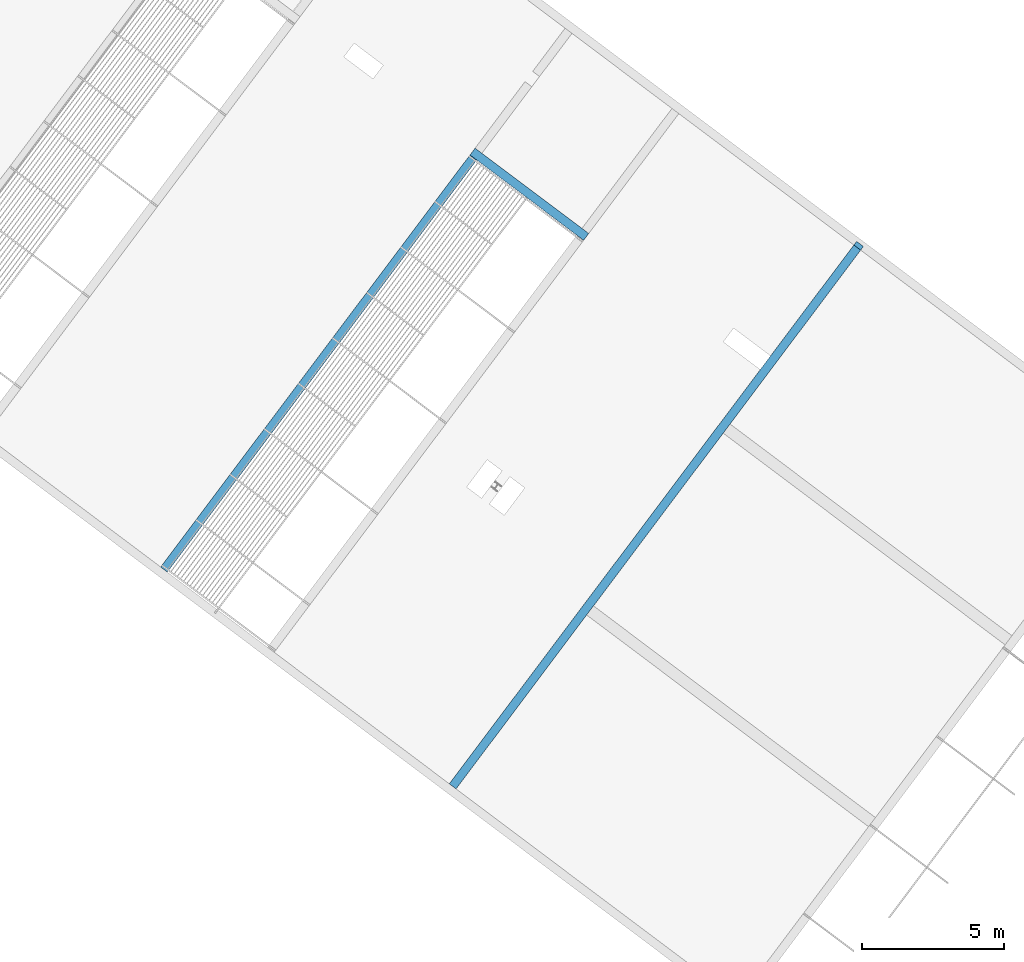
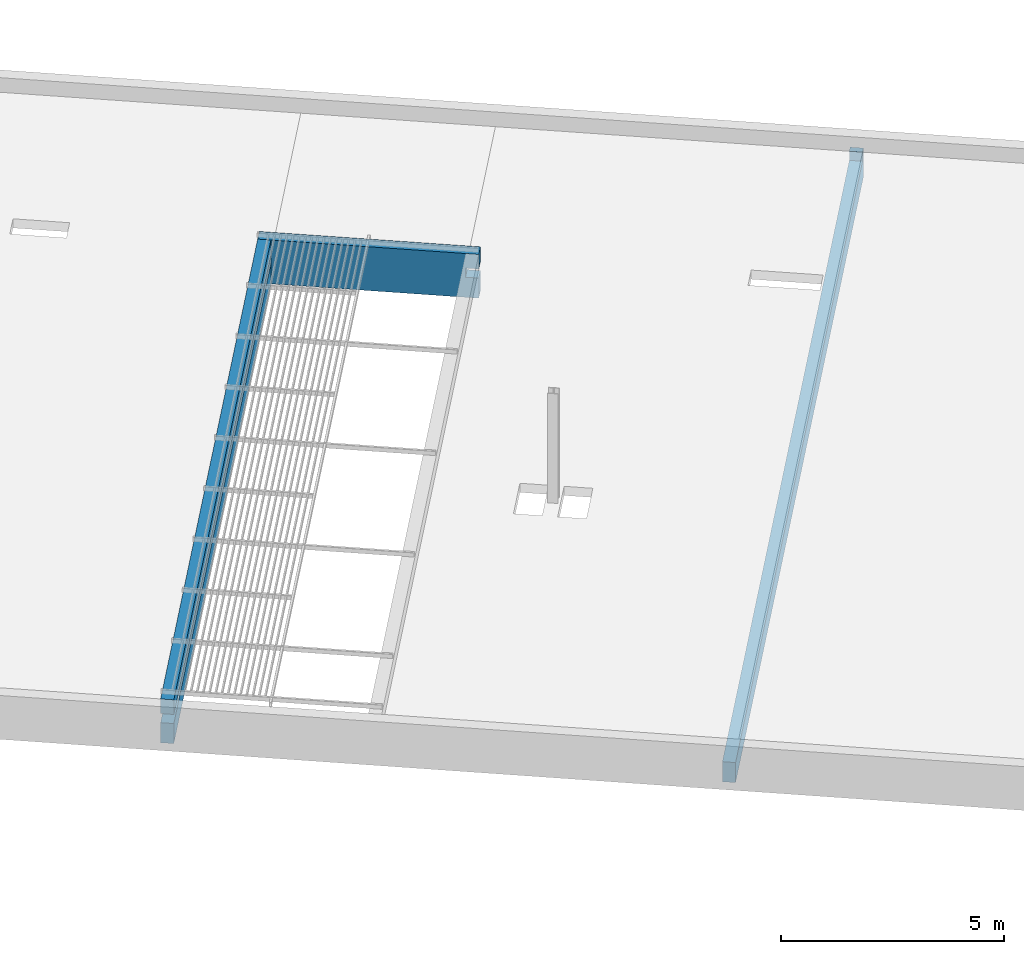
# One storey, part 94 of 95: 3 beams.
"""IFC2X3 building model written with IfcOpenShell, lengths in metres."""

from ifc_helpers import new_model, entity, si_unit, converted_unit, derived_unit, direction, frame, origin, place, context, subcontext, project, spatial, faceted_brep, source, transform, mapped, material, type_object, type_shapes, element, save


model = new_model("IFC2X3")

# Units and contexts
model_context = context("Model", 3, precision=1e-05, world=origin(), true_north=direction((6.123031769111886e-17, 1.0)))
body_context = subcontext(model_context, "Body", "Model", "MODEL_VIEW")
ifc_project = project(units=[si_unit("LENGTHUNIT", "METRE"), si_unit("AREAUNIT", "SQUARE_METRE"), si_unit("VOLUMEUNIT", "CUBIC_METRE"), converted_unit("PLANEANGLEUNIT", "DEGREE", entity("IfcRatioMeasure", 0.017453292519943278), si_unit("PLANEANGLEUNIT", "RADIAN"), dimensions=[0, 0, 0, 0, 0, 0, 0]), si_unit("MASSUNIT", "GRAM", prefix="KILO"), derived_unit("MASSDENSITYUNIT", [(si_unit("MASSUNIT", "GRAM", prefix="KILO"), 1), (si_unit("LENGTHUNIT", "METRE"), -3)]), derived_unit("IONCONCENTRATIONUNIT", [(si_unit("MASSUNIT", "GRAM", prefix="KILO"), 1), (si_unit("LENGTHUNIT", "METRE"), -3)]), derived_unit("MOMENTOFINERTIAUNIT", [(si_unit("LENGTHUNIT", "METRE"), 4)]), si_unit("TIMEUNIT", "SECOND"), si_unit("FREQUENCYUNIT", "HERTZ"), si_unit("THERMODYNAMICTEMPERATUREUNIT", "DEGREE_CELSIUS"), derived_unit("THERMALTRANSMITTANCEUNIT", [(si_unit("MASSUNIT", "GRAM", prefix="KILO"), 1), (si_unit("THERMODYNAMICTEMPERATUREUNIT", "KELVIN"), -1), (si_unit("TIMEUNIT", "SECOND"), -3)]), derived_unit("THERMALCONDUCTANCEUNIT", [(si_unit("MASSUNIT", "GRAM", prefix="KILO"), 1), (si_unit("THERMODYNAMICTEMPERATUREUNIT", "KELVIN"), -1), (si_unit("TIMEUNIT", "SECOND"), -3), (si_unit("LENGTHUNIT", "METRE"), 1)]), derived_unit("VOLUMETRICFLOWRATEUNIT", [(si_unit("LENGTHUNIT", "METRE"), 3), (si_unit("TIMEUNIT", "SECOND"), -1)]), derived_unit("MASSFLOWRATEUNIT", [(si_unit("MASSUNIT", "GRAM", prefix="KILO"), 1), (si_unit("TIMEUNIT", "SECOND"), -1)]), derived_unit("ROTATIONALFREQUENCYUNIT", [(si_unit("TIMEUNIT", "SECOND"), -1)]), si_unit("ELECTRICCURRENTUNIT", "AMPERE"), si_unit("ELECTRICVOLTAGEUNIT", "VOLT"), si_unit("POWERUNIT", "WATT"), si_unit("FORCEUNIT", "NEWTON", prefix="KILO"), si_unit("ILLUMINANCEUNIT", "LUX"), si_unit("LUMINOUSFLUXUNIT", "LUMEN"), si_unit("LUMINOUSINTENSITYUNIT", "CANDELA"), derived_unit("USERDEFINED", [(si_unit("MASSUNIT", "GRAM", prefix="KILO"), -1), (si_unit("LENGTHUNIT", "METRE"), -2), (si_unit("TIMEUNIT", "SECOND"), 3), (si_unit("LUMINOUSFLUXUNIT", "LUMEN"), 1)]), derived_unit("USERDEFINED", [(si_unit("MASSUNIT", "GRAM", prefix="KILO"), 1), (si_unit("TIMEUNIT", "SECOND"), -3), (si_unit("LENGTHUNIT", "METRE"), 3), (si_unit("ELECTRICCURRENTUNIT", "AMPERE"), -2)]), derived_unit("SOUNDPOWERUNIT", [(si_unit("MASSUNIT", "GRAM", prefix="KILO"), 1), (si_unit("TIMEUNIT", "SECOND"), -3), (si_unit("LENGTHUNIT", "METRE"), 2)]), derived_unit("SOUNDPRESSUREUNIT", [(si_unit("MASSUNIT", "GRAM", prefix="KILO"), 1), (si_unit("LENGTHUNIT", "METRE"), -1), (si_unit("TIMEUNIT", "SECOND"), -2)]), derived_unit("LINEARVELOCITYUNIT", [(si_unit("LENGTHUNIT", "METRE"), 1), (si_unit("TIMEUNIT", "SECOND"), -1)]), si_unit("PRESSUREUNIT", "PASCAL"), derived_unit("USERDEFINED", [(si_unit("MASSUNIT", "GRAM", prefix="KILO"), 1), (si_unit("LENGTHUNIT", "METRE"), -2), (si_unit("TIMEUNIT", "SECOND"), -2)]), derived_unit("LINEARFORCEUNIT", [(si_unit("MASSUNIT", "GRAM", prefix="KILO"), 1), (si_unit("TIMEUNIT", "SECOND"), -2)]), derived_unit("PLANARFORCEUNIT", [(si_unit("MASSUNIT", "GRAM", prefix="KILO"), 1), (si_unit("LENGTHUNIT", "METRE"), -1), (si_unit("TIMEUNIT", "SECOND"), -2)]), derived_unit("SPECIFICHEATCAPACITYUNIT", [(si_unit("THERMODYNAMICTEMPERATUREUNIT", "KELVIN"), -1), (si_unit("LENGTHUNIT", "METRE"), 2), (si_unit("TIMEUNIT", "SECOND"), -2)]), derived_unit("HEATINGVALUEUNIT", [(si_unit("LENGTHUNIT", "METRE"), 2), (si_unit("TIMEUNIT", "SECOND"), -2)]), derived_unit("VAPORPERMEABILITYUNIT", [(si_unit("LENGTHUNIT", "METRE"), -1), (si_unit("TIMEUNIT", "SECOND"), 1)]), derived_unit("DYNAMICVISCOSITYUNIT", [(si_unit("MASSUNIT", "GRAM", prefix="KILO"), 1), (si_unit("TIMEUNIT", "SECOND"), -1), (si_unit("LENGTHUNIT", "METRE"), -1)]), derived_unit("THERMALEXPANSIONCOEFFICIENTUNIT", [(si_unit("THERMODYNAMICTEMPERATUREUNIT", "KELVIN"), -1)]), derived_unit("MODULUSOFELASTICITYUNIT", [(si_unit("MASSUNIT", "GRAM", prefix="KILO"), 1), (si_unit("LENGTHUNIT", "METRE"), -1), (si_unit("TIMEUNIT", "SECOND"), -2)]), derived_unit("ISOTHERMALMOISTURECAPACITYUNIT", [(si_unit("LENGTHUNIT", "METRE"), 3), (si_unit("MASSUNIT", "GRAM", prefix="KILO"), -1)]), derived_unit("MOISTUREDIFFUSIVITYUNIT", [(si_unit("TIMEUNIT", "SECOND"), -1), (si_unit("LENGTHUNIT", "METRE"), 2)])], contexts=[model_context])

# Site, building, storey
site_placement = place(None, origin())
site = spatial("IfcSite", under=ifc_project, at=site_placement, Name="Default", CompositionType="ELEMENT")
building_placement = place(site_placement, frame((0.0, 0.0, 235.0), z_axis=(0.0, 0.0, 1.0), x_axis=(-0.7996477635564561, 0.6004693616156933, 0.0)))
building = spatial("IfcBuilding", under=site, at=building_placement, CompositionType="ELEMENT")
storey_placement = place(building_placement, frame((0.0, 0.0, 3.400000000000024)))
storey = spatial("IfcBuildingStorey", under=building, at=storey_placement, Name="PC- Coberta STR", CompositionType="ELEMENT", Elevation=3.400000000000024)

# Beams
ifc_material = material(Name="_Formigó- T1- STR")
beam_type_1 = type_object("IfcBeamType", Name="STR- V- Formigó- Rectangular- T1:30x120 cm", PredefinedType="NOTDEFINED")
beam_1_placement = place(storey_placement, frame((23.645147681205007, -36.76519175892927, -0.8000000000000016)))
element("IfcBeam", 1, at=beam_1_placement, inside=storey, type_object=beam_type_1, material=ifc_material, Name="STR- V- Formigó- Rectangular- T1:30x120 cm", ObjectType="STR- V- Formigó- Rectangular- T1:30x120 cm", context=body_context, shape_type="Brep", body=[
    faceted_brep([(0.0, 0.3000000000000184, 1.199999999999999), (0.0, 0.0, 1.199999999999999), (5.0, 0.0, 1.199999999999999), (5.0, 0.30000000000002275, 1.199999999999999), (4.699999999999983, 0.3000000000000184, 1.199999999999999), (0.3000000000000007, 0.30000000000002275, 1.199999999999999), (0.0, 0.0, 0.8000000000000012), (0.29999999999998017, 0.0, 0.8000000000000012), (0.29999999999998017, 0.0, 0.5500000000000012), (0.0, 0.0, 0.5500000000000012), (0.0, 0.0, 0.0), (0.29999999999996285, 0.0, 0.0), (4.699999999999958, 0.0, 0.0), (5.0, 0.0, 0.0), (5.0, 0.0, 0.5500000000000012), (4.699999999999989, 0.0, 0.5500000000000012), (4.699999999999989, 0.0, 0.8000000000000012), (5.0, 0.0, 0.8000000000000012), (0.0, 0.30000000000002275, 0.0), (0.3000000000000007, 0.3000000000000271, 0.0), (4.699999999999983, 0.30000000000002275, 0.0), (5.0, 0.3000000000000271, 0.0), (5.0, 0.3000000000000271, 0.8000000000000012), (4.699999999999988, 0.30000000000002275, 0.8000000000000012), (4.699999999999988, 0.30000000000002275, 0.5500000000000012), (5.0, 0.3000000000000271, 0.5500000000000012), (0.0, 0.30000000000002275, 0.5500000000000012), (0.29999999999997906, 0.3000000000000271, 0.5500000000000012), (0.29999999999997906, 0.3000000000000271, 0.8000000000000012), (0.0, 0.30000000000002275, 0.8000000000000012)], [[[0, 1, 2, 3, 4, 5]], [[2, 1, 6, 7, 8, 9, 10, 11, 12, 13, 14, 15, 16, 17]], [[10, 18, 19, 20, 21, 13, 12, 11]], [[0, 5, 4, 3, 22, 23, 24, 25, 21, 20, 19, 18, 26, 27, 28, 29]], [[1, 0, 29, 6]], [[13, 21, 25, 14]], [[8, 27, 26, 9]], [[28, 7, 6, 29]], [[15, 24, 23, 16]], [[27, 8, 7, 28]], [[18, 10, 9, 26]], [[3, 2, 17, 22]], [[24, 15, 14, 25]], [[16, 23, 22, 17]]]),
])
beam_type_2 = type_object("IfcBeamType", Name="STR- V- Formigó- Rectangular- T1:30x80 cm", PredefinedType="NOTDEFINED")
beam_2_placement = place(storey_placement, frame((15.645147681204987, -42.20289175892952, -0.8000000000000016), z_axis=(0.0, 0.0, 1.0), x_axis=(0.0, -1.0, 0.0)))
element("IfcBeam", 2, at=beam_2_placement, inside=storey, type_object=beam_type_2, material=ifc_material, Name="STR- V- Formigó- Rectangular- T1:30x80 cm", ObjectType="STR- V- Formigó- Rectangular- T1:30x80 cm", context=body_context, shape_type="Brep", body=[
    faceted_brep([(0.0, 0.30000000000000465, 0.8), (0.0, 0.0, 0.8), (0.0, 0.0, 0.0), (0.0, 0.30000000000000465, 0.0), (-0.1627000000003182, 0.3000000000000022, 0.8), (-0.1627000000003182, 0.0, 0.8), (-0.1627000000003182, 0.0, 0.5500000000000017), (-7.812699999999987, 0.0, 0.5500000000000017), (-8.212699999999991, 0.0, 0.5500000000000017), (-15.812699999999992, 0.0, 0.5500000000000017), (-16.212699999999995, 0.0, 0.5500000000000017), (-23.862699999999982, 0.0, 0.5500000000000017), (-23.862699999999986, 0.0, 0.0), (-16.212699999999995, 0.0, 0.0), (-15.812699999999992, 0.0, 0.0), (-8.212699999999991, 0.0, 0.0), (-7.812699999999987, 0.0, 0.0), (-0.16270000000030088, 0.0, 0.0), (-23.862699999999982, 0.3000000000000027, 0.0), (-22.5127, 0.30000000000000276, 0.0), (-22.0627, 0.3000000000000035, 0.0), (-17.7377, 0.3000000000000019, 0.0), (-17.7377, 0.04999999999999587, 0.0), (-16.837699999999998, 0.049999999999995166, 0.0), (-16.837699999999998, 0.3000000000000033, 0.0), (-12.737700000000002, 0.3000000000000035, 0.0), (-12.737700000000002, 0.049999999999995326, 0.0), (-11.837699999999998, 0.04999999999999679, 0.0), (-11.837699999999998, 0.30000000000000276, 0.0), (-7.737700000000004, 0.30000000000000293, 0.0), (-7.737700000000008, 0.05000000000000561, 0.0), (-6.837700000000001, 0.050000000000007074, 0.0), (-6.837700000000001, 0.3000000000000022, 0.0), (-2.512700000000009, 0.30000000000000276, 0.0), (-2.512700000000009, 0.0500000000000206, 0.0), (-2.0627000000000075, 0.050000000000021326, 0.0), (-2.0627000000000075, 0.3000000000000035, 0.0), (-0.16270000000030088, 0.3000000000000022, 0.0), (-2.0627000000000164, 0.3000000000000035, 0.5000000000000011), (-2.512700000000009, 0.30000000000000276, 0.5000000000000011), (-6.837700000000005, 0.3000000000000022, 0.5000000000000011), (-7.737700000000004, 0.30000000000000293, 0.5000000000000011), (-11.837700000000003, 0.30000000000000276, 0.5000000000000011), (-12.737700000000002, 0.3000000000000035, 0.5000000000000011), (-16.8377, 0.3000000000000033, 0.5000000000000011), (-17.7377, 0.3000000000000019, 0.5000000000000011), (-23.862699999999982, 0.3000000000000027, 0.5500000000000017), (-5.642701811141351, 0.300000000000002, 0.5500000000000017), (-5.042701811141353, 0.300000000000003, 0.5500000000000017), (-0.1627000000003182, 0.3000000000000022, 0.5500000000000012), (-16.8377, 0.04999999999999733, 0.5000000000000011), (-17.7377, 0.04999999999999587, 0.5000000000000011), (-11.837700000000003, 0.04999999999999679, 0.5000000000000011), (-12.737700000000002, 0.049999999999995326, 0.5000000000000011), (-6.837700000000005, 0.050000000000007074, 0.5000000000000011), (-7.737700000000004, 0.05000000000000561, 0.5000000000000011), (-2.0627000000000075, 0.050000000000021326, 0.5000000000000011), (-2.512700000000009, 0.0500000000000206, 0.5000000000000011)], [[[0, 1, 2, 3]], [[1, 0, 4, 5]], [[2, 1, 5, 6, 7, 8, 9, 10, 11, 12, 13, 14, 15, 16, 17]], [[3, 2, 17, 16, 15, 14, 13, 12, 18, 19, 20, 21, 22, 23, 24, 25, 26, 27, 28, 29, 30, 31, 32, 33, 34, 35, 36, 37]], [[0, 3, 37, 36, 38, 39, 33, 32, 40, 41, 29, 28, 42, 43, 25, 24, 44, 45, 21, 20, 19, 18, 46, 47, 48, 49, 4]], [[50, 44, 24, 23]], [[51, 50, 23, 22]], [[45, 51, 22, 21]], [[44, 50, 51, 45]], [[52, 42, 28, 27]], [[53, 52, 27, 26]], [[43, 53, 26, 25]], [[42, 52, 53, 43]], [[54, 40, 32, 31]], [[55, 54, 31, 30]], [[41, 55, 30, 29]], [[40, 54, 55, 41]], [[18, 12, 11, 46]], [[6, 49, 48, 47, 46, 11, 10, 9, 8, 7]], [[49, 6, 5, 4]], [[56, 38, 36, 35]], [[57, 56, 35, 34]], [[39, 57, 34, 33]], [[38, 56, 57, 39]]]),
])
beam_type_3 = type_object("IfcBeamType", Name="STR- V- Formigó- Rectangular- T1:30x120 cm", PredefinedType="BEAM", material=ifc_material)
shared_shape = source(origin(), body_context, "Body", "Brep", [
    faceted_brep([(0.0, 0.0, 1.199999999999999), (0.3000000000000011, 0.0, 1.199999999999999), (0.3000000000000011, 18.124999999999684, 1.199999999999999), (0.0, 18.124999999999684, 1.199999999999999), (0.0, 18.124999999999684, 0.8000000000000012), (0.0, 0.0, 0.8000000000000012), (0.3000000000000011, 0.0, 0.8000000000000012), (0.3000000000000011, 18.124999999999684, 0.8000000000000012)], [[[0, 1, 2, 3]], [[0, 3, 4, 5]], [[2, 1, 6, 7]], [[3, 2, 7, 4]], [[5, 4, 7, 6]], [[1, 0, 5, 6]]]),
    faceted_brep([(0.3000000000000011, 0.0, 0.0), (0.0, 0.0, 0.0), (0.0, 16.32499999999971, 0.0), (0.0, 16.774999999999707, 0.0), (0.0, 18.124999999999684, 0.0), (0.3000000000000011, 18.124999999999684, 0.0), (0.3000000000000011, 16.774999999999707, 0.0), (0.3000000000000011, 16.324999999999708, 0.0), (0.3000000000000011, 12.0, 0.0), (0.04999999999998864, 12.0, 0.0), (0.04999999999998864, 11.099999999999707, 0.0), (0.3000000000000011, 11.099999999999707, 0.0), (0.3000000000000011, 7.0, 0.0), (0.04999999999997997, 7.0, 0.0), (0.04999999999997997, 6.099999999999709, 0.0), (0.3000000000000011, 6.099999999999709, 0.0), (0.3000000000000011, 2.0, 0.0), (0.04999999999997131, 2.0, 0.0), (0.049999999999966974, 1.099999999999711, 0.0), (0.3000000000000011, 1.099999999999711, 0.0), (0.3000000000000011, 0.0, 0.5500000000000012), (0.0, 0.0, 0.5500000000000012), (0.04999999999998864, 11.099999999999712, 0.5000000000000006), (0.3000000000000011, 11.099999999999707, 0.5000000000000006), (0.04999999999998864, 12.0, 0.5000000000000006), (0.2999999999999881, 12.0, 0.5000000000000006), (0.04999999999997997, 6.099999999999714, 0.5000000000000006), (0.3000000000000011, 6.099999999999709, 0.5000000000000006), (0.04999999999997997, 7.0, 0.5000000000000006), (0.29999999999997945, 7.0, 0.5000000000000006), (0.04999999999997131, 1.0999999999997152, 0.5000000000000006), (0.3000000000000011, 1.099999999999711, 0.5000000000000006), (0.04999999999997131, 2.0, 0.5000000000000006), (0.2999999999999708, 2.0, 0.5000000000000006), (0.0, 18.124999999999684, 0.5500000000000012), (0.3000000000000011, 18.124999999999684, 0.5500000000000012)], [[[0, 1, 2, 3, 4, 5, 6, 7, 8, 9, 10, 11, 12, 13, 14, 15, 16, 17, 18, 19]], [[1, 0, 20, 21]], [[22, 23, 11, 10]], [[24, 22, 10, 9]], [[25, 24, 9, 8]], [[23, 22, 24, 25]], [[26, 27, 15, 14]], [[28, 26, 14, 13]], [[29, 28, 13, 12]], [[27, 26, 28, 29]], [[30, 31, 19, 18]], [[32, 30, 18, 17]], [[33, 32, 17, 16]], [[31, 30, 32, 33]], [[34, 21, 20, 35]], [[4, 3, 2, 1, 21, 34]], [[8, 7, 6, 5, 35, 20, 0, 19, 31, 33, 16, 15, 27, 29, 12, 11, 23, 25]], [[5, 4, 34, 35]]]),
])
type_shapes(beam_type_3, [shared_shape])
beam_3_placement = place(storey_placement, frame((28.345147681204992, -36.46519175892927, -0.8000000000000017)))
element("IfcBeam", 3, at=beam_3_placement, inside=storey, type_object=beam_type_3, material=ifc_material, Name="STR- V- Formigó- Rectangular- T1:30x120 cm", ObjectType="STR- V- Formigó- Rectangular- T1:30x120 cm", context=body_context, shape_type="MappedRepresentation", body=[
    mapped(shared_shape, transform((0.0, 0.0, 0.0), scale=1.0)),
])

save(model, "model.ifc")
